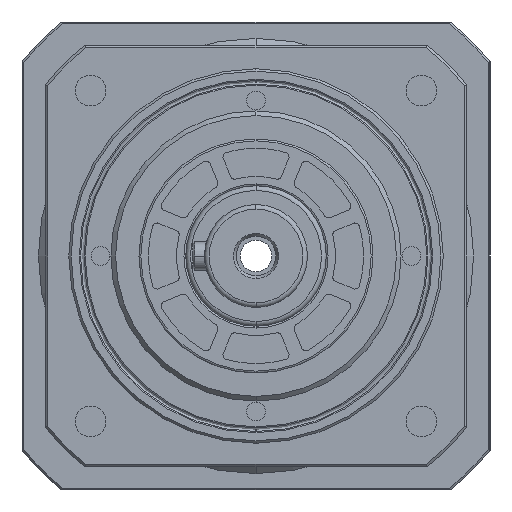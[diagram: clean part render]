
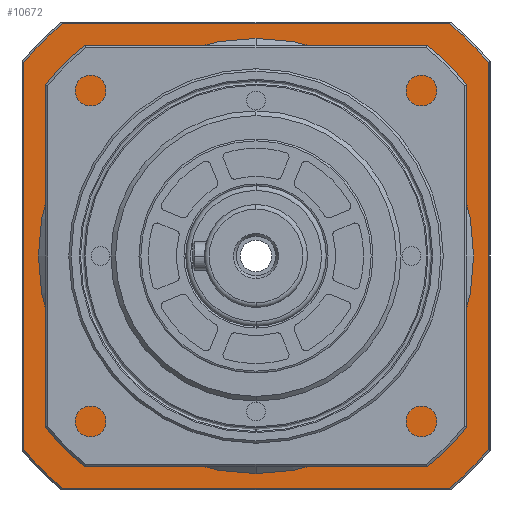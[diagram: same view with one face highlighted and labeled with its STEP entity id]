
A CAD part, left-side view. The second image highlights one B-rep face of the part: STEP entity #10672.
In plain terms, the highlighted planar face has unit normal (-1, 0, 0).
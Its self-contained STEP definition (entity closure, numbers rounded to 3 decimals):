
#280 = EDGE_LOOP ( 'NONE', ( #11152, #11088 ) ) ;
#474 = EDGE_LOOP ( 'NONE', ( #11118, #11507, #11071, #11481, #11484, #11434, #11531, #11526 ) ) ;
#1181 = CARTESIAN_POINT ( 'NONE',  ( 125.175, 41.422, 49.6 ) ) ;
#1182 = DIRECTION ( 'NONE',  ( 0., 1., 0. ) ) ;
#1269 = CARTESIAN_POINT ( 'NONE',  ( 125.175, 2.422, 0. ) ) ;
#1286 = DIRECTION ( 'NONE',  ( -1., 0., 0. ) ) ;
#1372 = DIRECTION ( 'NONE',  ( 0., 0., -1. ) ) ;
#1393 = CARTESIAN_POINT ( 'NONE',  ( 125.175, 2.422, 0. ) ) ;
#1396 = DIRECTION ( 'NONE',  ( 1., 0., 0. ) ) ;
#1397 = DIRECTION ( 'NONE',  ( 0., 0., -1. ) ) ;
#1781 = CIRCLE ( 'NONE', #8229, 39.4 ) ;
#2700 = CARTESIAN_POINT ( 'NONE',  ( 125.175, 52.022, 0. ) ) ;
#2701 = DIRECTION ( 'NONE',  ( 0., 0., -1. ) ) ;
#2708 = CARTESIAN_POINT ( 'NONE',  ( 125.175, 2.422, 0. ) ) ;
#2710 = DIRECTION ( 'NONE',  ( -1., 0., 0. ) ) ;
#2712 = DIRECTION ( 'NONE',  ( 0., 0., -1. ) ) ;
#2732 = CARTESIAN_POINT ( 'NONE',  ( 125.175, 41.422, -49.6 ) ) ;
#2734 = DIRECTION ( 'NONE',  ( 0., -1., 0. ) ) ;
#2770 = CIRCLE ( 'NONE', #14950, 64.6 ) ;
#2773 = CIRCLE ( 'NONE', #14952, 64.6 ) ;
#2788 = LINE ( 'NONE', #8703, #2790 ) ;
#2790 = VECTOR ( 'NONE', #8699, 1000. ) ;
#2984 = VERTEX_POINT ( 'NONE', #6585 ) ;
#2987 = VERTEX_POINT ( 'NONE', #6582 ) ;
#3007 = VERTEX_POINT ( 'NONE', #6614 ) ;
#3023 = VERTEX_POINT ( 'NONE', #6628 ) ;
#3091 = VERTEX_POINT ( 'NONE', #6499 ) ;
#3278 = VERTEX_POINT ( 'NONE', #5950 ) ;
#3390 = VERTEX_POINT ( 'NONE', #5851 ) ;
#3523 = VERTEX_POINT ( 'NONE', #5658 ) ;
#3528 = VERTEX_POINT ( 'NONE', #5627 ) ;
#3563 = VERTEX_POINT ( 'NONE', #5588 ) ;
#5136 = LINE ( 'NONE', #2700, #5150 ) ;
#5141 = CIRCLE ( 'NONE', #14861, 64.6 ) ;
#5150 = VECTOR ( 'NONE', #2701, 1000. ) ;
#5161 = VECTOR ( 'NONE', #2734, 1000. ) ;
#5251 = LINE ( 'NONE', #2732, #5161 ) ;
#5588 = CARTESIAN_POINT ( 'NONE',  ( 125.175, 43.81, -49.6 ) ) ;
#5627 = CARTESIAN_POINT ( 'NONE',  ( 125.175, -47.178, -41.388 ) ) ;
#5658 = CARTESIAN_POINT ( 'NONE',  ( 125.175, -38.967, 49.6 ) ) ;
#5851 = CARTESIAN_POINT ( 'NONE',  ( 125.175, 2.422, 39.4 ) ) ;
#5950 = CARTESIAN_POINT ( 'NONE',  ( 125.175, 2.422, -39.4 ) ) ;
#6499 = CARTESIAN_POINT ( 'NONE',  ( 125.175, 43.81, 49.6 ) ) ;
#6582 = CARTESIAN_POINT ( 'NONE',  ( 125.175, 52.022, -41.388 ) ) ;
#6585 = CARTESIAN_POINT ( 'NONE',  ( 125.175, -47.178, 41.388 ) ) ;
#6614 = CARTESIAN_POINT ( 'NONE',  ( 125.175, -38.967, -49.6 ) ) ;
#6628 = CARTESIAN_POINT ( 'NONE',  ( 125.175, 52.022, 41.388 ) ) ;
#7060 = FACE_OUTER_BOUND ( 'NONE', #474, .T. ) ;
#7185 = FACE_BOUND ( 'NONE', #280, .T. ) ;
#7786 = EDGE_CURVE ( 'NONE', #3091, #3023, #10541, .T. ) ;
#7830 = EDGE_CURVE ( 'NONE', #3523, #3091, #10664, .T. ) ;
#7837 = EDGE_CURVE ( 'NONE', #3278, #3390, #10546, .T. ) ;
#8229 = AXIS2_PLACEMENT_3D ( 'NONE', #12798, #12811, #12897 ) ;
#8283 = AXIS2_PLACEMENT_3D ( 'NONE', #1393, #1396, #1397 ) ;
#8302 = AXIS2_PLACEMENT_3D ( 'NONE', #1269, #1286, #1372 ) ;
#8689 = DIRECTION ( 'NONE',  ( -1., 0., 0. ) ) ;
#8690 = DIRECTION ( 'NONE',  ( 0., 0., -1. ) ) ;
#8693 = CARTESIAN_POINT ( 'NONE',  ( 125.175, 2.422, 0. ) ) ;
#8695 = DIRECTION ( 'NONE',  ( -1., 0., 0. ) ) ;
#8696 = CARTESIAN_POINT ( 'NONE',  ( 125.175, 2.422, 0. ) ) ;
#8697 = DIRECTION ( 'NONE',  ( 0., 0., -1. ) ) ;
#8699 = DIRECTION ( 'NONE',  ( 0., 0., 1. ) ) ;
#8703 = CARTESIAN_POINT ( 'NONE',  ( 125.175, -47.178, 0. ) ) ;
#9108 = EDGE_CURVE ( 'NONE', #3390, #3278, #1781, .T. ) ;
#9409 = EDGE_CURVE ( 'NONE', #3528, #2984, #2788, .T. ) ;
#9410 = EDGE_CURVE ( 'NONE', #3007, #3528, #2773, .T. ) ;
#9412 = EDGE_CURVE ( 'NONE', #2984, #3523, #2770, .T. ) ;
#9635 = EDGE_CURVE ( 'NONE', #3023, #2987, #5136, .T. ) ;
#9638 = EDGE_CURVE ( 'NONE', #2987, #3563, #5141, .T. ) ;
#9644 = EDGE_CURVE ( 'NONE', #3563, #3007, #5251, .T. ) ;
#10541 = CIRCLE ( 'NONE', #8302, 64.6 ) ;
#10546 = CIRCLE ( 'NONE', #8283, 39.4 ) ;
#10657 = VECTOR ( 'NONE', #1182, 1000. ) ;
#10664 = LINE ( 'NONE', #1181, #10657 ) ;
#10672 = ADVANCED_FACE ( 'NONE', ( #7185, #7060 ), #13999, .F. ) ;
#11071 = ORIENTED_EDGE ( 'NONE', *, *, #9635, .T. ) ;
#11088 = ORIENTED_EDGE ( 'NONE', *, *, #7837, .T. ) ;
#11118 = ORIENTED_EDGE ( 'NONE', *, *, #7830, .T. ) ;
#11152 = ORIENTED_EDGE ( 'NONE', *, *, #9108, .T. ) ;
#11434 = ORIENTED_EDGE ( 'NONE', *, *, #9410, .T. ) ;
#11481 = ORIENTED_EDGE ( 'NONE', *, *, #9638, .T. ) ;
#11484 = ORIENTED_EDGE ( 'NONE', *, *, #9644, .T. ) ;
#11507 = ORIENTED_EDGE ( 'NONE', *, *, #7786, .T. ) ;
#11526 = ORIENTED_EDGE ( 'NONE', *, *, #9412, .T. ) ;
#11531 = ORIENTED_EDGE ( 'NONE', *, *, #9409, .T. ) ;
#12798 = CARTESIAN_POINT ( 'NONE',  ( 125.175, 2.422, 0. ) ) ;
#12811 = DIRECTION ( 'NONE',  ( 1., 0., 0. ) ) ;
#12897 = DIRECTION ( 'NONE',  ( 0., 0., -1. ) ) ;
#13742 = CARTESIAN_POINT ( 'NONE',  ( 125.175, 41.422, 0. ) ) ;
#13747 = DIRECTION ( 'NONE',  ( 0., 0., -1. ) ) ;
#13998 = DIRECTION ( 'NONE',  ( 1., 0., 0. ) ) ;
#13999 = PLANE ( 'NONE',  #15166 ) ;
#14861 = AXIS2_PLACEMENT_3D ( 'NONE', #2708, #2710, #2712 ) ;
#14950 = AXIS2_PLACEMENT_3D ( 'NONE', #8693, #8689, #8690 ) ;
#14952 = AXIS2_PLACEMENT_3D ( 'NONE', #8696, #8695, #8697 ) ;
#15166 = AXIS2_PLACEMENT_3D ( 'NONE', #13742, #13998, #13747 ) ;
